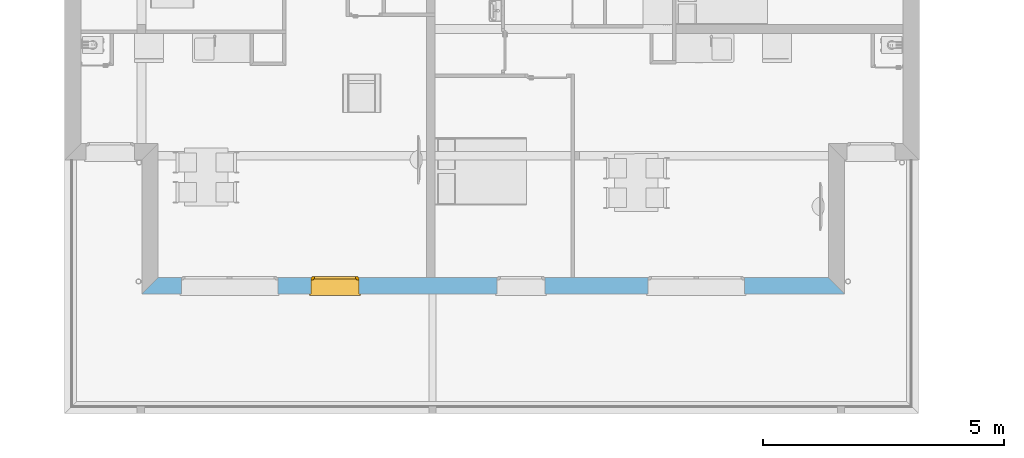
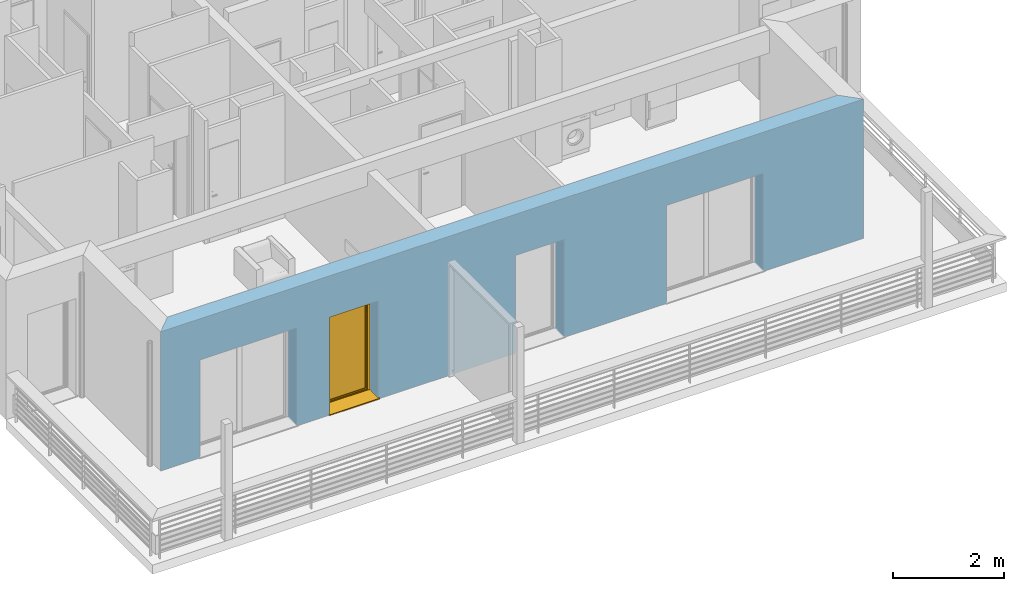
# One storey, part 6 of 165: 1 window, 4 openings, plus 1 element that does not belong to this part.
"""IFC2X3 building model written with IfcOpenShell, lengths in millimetres."""

from ifc_helpers import new_model, entity, si_unit, converted_unit, derived_unit, money_unit, direction, frame, origin_with_axes, place, context, subcontext, project, spatial, polyline, outline, extrude, open_shell, faceted_brep, surface_model, source, transform, mapped, material, layer, layer_set, layer_usage, type_object, element, fill, save


model = new_model("IFC2X3")

# Units and contexts
model_context = context("Model", 3, precision=0.01, world=origin_with_axes(), true_north=direction((0.0, 1.0)))
body_context = subcontext(model_context, "Body", "Model", "MODEL_VIEW")
ifc_project = project(units=[si_unit("LENGTHUNIT", "METRE", prefix="MILLI"), si_unit("AREAUNIT", "SQUARE_METRE"), si_unit("VOLUMEUNIT", "CUBIC_METRE"), converted_unit("PLANEANGLEUNIT", "DEGREE", entity("IfcPlaneAngleMeasure", 0.0174532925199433), si_unit("PLANEANGLEUNIT", "RADIAN"), dimensions=[0, 0, 0, 0, 0, 0, 0]), money_unit("USD"), converted_unit("TIMEUNIT", "Year", entity("IfcTimeMeasure", 31557600.0), si_unit("TIMEUNIT", "SECOND"), dimensions=[0, 0, 1, 0, 0, 0, 0]), si_unit("MASSUNIT", "GRAM", prefix="KILO"), si_unit("THERMODYNAMICTEMPERATUREUNIT", "DEGREE_CELSIUS"), si_unit("LUMINOUSINTENSITYUNIT", "LUMEN"), si_unit("ENERGYUNIT", "JOULE", prefix="MEGA"), derived_unit("THERMALCONDUCTANCEUNIT", [(si_unit("POWERUNIT", "WATT"), 1), (si_unit("LENGTHUNIT", "METRE"), -1), (si_unit("THERMODYNAMICTEMPERATUREUNIT", "KELVIN"), -1)]), derived_unit("SPECIFICHEATCAPACITYUNIT", [(si_unit("ENERGYUNIT", "JOULE"), 1), (si_unit("MASSUNIT", "GRAM", prefix="KILO"), -1), (si_unit("THERMODYNAMICTEMPERATUREUNIT", "KELVIN"), -1)]), derived_unit("MASSDENSITYUNIT", [(si_unit("MASSUNIT", "GRAM", prefix="KILO"), 1), (si_unit("VOLUMEUNIT", "CUBIC_METRE"), -1)])], contexts=[model_context])

# Site, building, storey
site_placement = place(None, origin_with_axes())
site = spatial("IfcSite", under=ifc_project, at=site_placement, Name="Site", CompositionType="ELEMENT")
building_placement = place(site_placement, origin_with_axes())
building = spatial("IfcBuilding", under=site, at=building_placement, Name="Bâtiment", CompositionType="ELEMENT")
storey_placement = place(building_placement, frame((0.0, 0.0, 8500.0), z_axis=(0.0, 0.0, 1.0), x_axis=(1.0, 0.0, 0.0)))
storey = spatial("IfcBuildingStorey", under=building, at=storey_placement, Name="Etage 2", CompositionType="ELEMENT", Elevation=8500.0)

# Wall, openings, window
ifc_material_1 = material(Name="Parpaing 312445824")
ifc_layer_1 = layer(ifc_material_1, 180.0, ventilated="UNKNOWN")
ifc_material_2 = material(Name="Isolant styromousse 301821074")
ifc_layer_2 = layer(ifc_material_2, 160.0, ventilated="UNKNOWN")
ifc_layer_set = layer_set([ifc_layer_1, ifc_layer_2], Name="isol int 18+16 0018356637")
ifc_layer_usage = layer_usage(ifc_layer_set, "AXIS2", "POSITIVE", 0.0)
wall_type = type_object("IfcWallType", Name="isol int 18+16 0018356637 340", PredefinedType="NOTDEFINED")
wall_placement = place(storey_placement, frame((2218234.233338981, -657818.3230769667, 0.0), z_axis=(0.0, 0.0, 1.0), x_axis=(1.0, 0.0, 0.0)))
wall = element("IfcWallStandardCase", 1, at=wall_placement, inside=storey, type_object=wall_type, material=ifc_layer_usage, Name="Mur-142", context=body_context, shape_type="SweptSolid", body=[
    extrude(outline(polyline([(-1.13686837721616e-10, 0.0), (14572.4247596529, 0.0), (14232.42475965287, 340.0000000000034), (339.9999999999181, 340.0000000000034), (-1.13686837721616e-10, 0.0)])), origin_with_axes(), (0.0, 0.0, 1.0), 3050.0),
])
opening_1_placement = place(wall_placement, frame((11494.55984898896, 0.0, 0.0), z_axis=(0.0, 0.0, 1.0), x_axis=(1.0, 0.0, 0.0)))
element("IfcOpeningElement", 2, at=opening_1_placement, cuts=wall, Name="Fen-207", context=body_context, shape_type="Brep", body=[
    faceted_brep([(-1000.0, 341.0000000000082, 2150.0), (1000.0, 341.0000000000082, 2150.0), (1000.0, 341.0000000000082, 0.0), (-1000.0, 341.0000000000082, 0.0), (-1000.0, 530.0000000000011, 2150.0), (1000.0, 530.0000000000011, 2150.0), (1000.0, 290.0000000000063, 2150.0), (1000.0, 290.0000000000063, 0.0), (1000.0, -1.000000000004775, 0.0), (-1000.0, -1.000000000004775, 0.0), (-1000.0, 290.0000000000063, 0.0), (-1000.0, 290.0000000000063, 2150.0), (-1000.0, 280.0000000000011, 2150.0), (-1000.0, 280.0000000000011, 2400.0), (-1000.0, 530.0000000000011, 2400.0), (1000.0, 530.0000000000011, 2400.0), (1000.0, 280.0000000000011, 2400.0), (1000.0, 280.0000000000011, 2150.0), (1000.0, -1.000000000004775, 2150.0), (-1000.0, -1.000000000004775, 2150.0)], [[[0, 1, 2, 3]], [[1, 0, 4, 5]], [[1, 6, 7, 2]], [[7, 8, 9, 10, 3, 2]], [[11, 0, 3, 10]], [[0, 11, 12, 13, 14, 4]], [[15, 5, 4, 14]], [[6, 1, 5, 15, 16, 17]], [[6, 17, 18, 8, 7]], [[19, 9, 8, 18]], [[12, 11, 10, 9, 19]], [[12, 17, 16, 13]], [[16, 15, 14, 13]], [[17, 12, 19, 18]]]),
])
opening_2_placement = place(wall_placement, frame((1819.125619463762, 0.0, 0.0), z_axis=(0.0, 0.0, 1.0), x_axis=(1.0, 0.0, 0.0)))
element("IfcOpeningElement", 3, at=opening_2_placement, cuts=wall, Name="Fen-207", context=body_context, shape_type="Brep", body=[
    faceted_brep([(-1000.0, 341.0000000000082, 2149.999999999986), (1000.0, 341.0000000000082, 2149.999999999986), (1000.0, 341.0000000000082, 0.0), (-1000.0, 341.0000000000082, 0.0), (-1000.0, 530.0000000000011, 2149.999999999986), (1000.0, 530.0000000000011, 2149.999999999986), (1000.0, 290.0000000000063, 2149.999999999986), (1000.0, 290.0000000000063, 0.0), (1000.0, -1.000000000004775, 0.0), (-1000.0, -1.000000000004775, 0.0), (-1000.0, 290.0000000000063, 0.0), (-1000.0, 290.0000000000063, 2149.999999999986), (-1000.0, 280.0000000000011, 2149.999999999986), (-1000.0, 280.0000000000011, 2399.999999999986), (-1000.0, 530.0000000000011, 2399.999999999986), (1000.0, 530.0000000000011, 2399.999999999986), (1000.0, 280.0000000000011, 2399.999999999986), (1000.0, 280.0000000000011, 2149.999999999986), (1000.0, -1.000000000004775, 2149.999999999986), (-1000.0, -1.000000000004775, 2149.999999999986)], [[[0, 1, 2, 3]], [[1, 0, 4, 5]], [[1, 6, 7, 2]], [[7, 8, 9, 10, 3, 2]], [[11, 0, 3, 10]], [[0, 11, 12, 13, 14, 4]], [[4, 14, 15, 5]], [[6, 1, 5, 15, 16, 17]], [[6, 17, 18, 8, 7]], [[19, 9, 8, 18]], [[12, 11, 10, 9, 19]], [[12, 17, 16, 13]], [[14, 13, 16, 15]], [[17, 12, 19, 18]]]),
])
opening_3_placement = place(wall_placement, frame((7861.100702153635, 0.0, 0.0), z_axis=(0.0, 0.0, 1.0), x_axis=(1.0, 0.0, 0.0)))
element("IfcOpeningElement", 4, at=opening_3_placement, cuts=wall, Name="Fen-207", context=body_context, shape_type="Brep", body=[
    faceted_brep([(-500.0, 341.0000000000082, 2150.0), (500.0, 341.0000000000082, 2150.0), (500.0, 341.0000000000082, 0.0), (-500.0, 341.0000000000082, 0.0), (-500.0, 530.0000000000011, 2150.0), (500.0, 530.0000000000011, 2150.0), (500.0, 290.0000000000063, 2150.0), (500.0, 290.0000000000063, 0.0), (500.0, -1.000000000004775, 0.0), (-500.0, -1.000000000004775, 0.0), (-500.0, 290.0000000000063, 0.0), (-500.0, 290.0000000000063, 2150.0), (-500.0, 280.0000000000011, 2150.0), (-500.0, 280.0000000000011, 2400.0), (-500.0, 530.0000000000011, 2400.0), (500.0, 530.0000000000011, 2400.0), (500.0, 280.0000000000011, 2400.0), (500.0, 280.0000000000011, 2150.0), (500.0, -1.000000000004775, 2150.0), (-500.0, -1.000000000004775, 2150.0)], [[[0, 1, 2, 3]], [[1, 0, 4, 5]], [[1, 6, 7, 2]], [[7, 8, 9, 10, 3, 2]], [[11, 0, 3, 10]], [[0, 11, 12, 13, 14, 4]], [[4, 14, 15, 5]], [[6, 1, 5, 15, 16, 17]], [[6, 17, 18, 8, 7]], [[19, 9, 8, 18]], [[12, 11, 10, 9, 19]], [[12, 17, 16, 13]], [[14, 13, 16, 15]], [[17, 12, 19, 18]]]),
])
opening_4_placement = place(wall_placement, frame((4005.859536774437, 0.0, 0.0), z_axis=(0.0, 0.0, 1.0), x_axis=(1.0, 0.0, 0.0)))
opening_4 = element("IfcOpeningElement", 5, at=opening_4_placement, cuts=wall, Name="Fen-208", context=body_context, shape_type="Brep", body=[
    faceted_brep([(-500.0, 341.0000000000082, 2150.000000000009), (500.0, 341.0000000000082, 2150.000000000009), (500.0, 341.0000000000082, 0.0), (-500.0, 341.0000000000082, 0.0), (-500.0, 530.0000000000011, 2150.000000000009), (500.0, 530.0000000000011, 2150.000000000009), (500.0, 290.0000000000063, 2150.000000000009), (500.0, 290.0000000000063, 0.0), (500.0, -1.000000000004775, 0.0), (-500.0, -1.000000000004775, 0.0), (-500.0, 290.0000000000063, 0.0), (-500.0, 290.0000000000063, 2150.000000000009), (-500.0, 280.0000000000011, 2150.000000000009), (-500.0, 280.0000000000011, 2400.000000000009), (-500.0, 530.0000000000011, 2400.000000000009), (500.0, 530.0000000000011, 2400.000000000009), (500.0, 280.0000000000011, 2400.000000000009), (500.0, 280.0000000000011, 2150.000000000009), (500.0, -1.000000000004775, 2150.000000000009), (-500.0, -1.000000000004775, 2150.000000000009)], [[[0, 1, 2, 3]], [[1, 0, 4, 5]], [[1, 6, 7, 2]], [[7, 8, 9, 10, 3, 2]], [[11, 0, 3, 10]], [[0, 11, 12, 13, 14, 4]], [[4, 14, 15, 5]], [[6, 1, 5, 15, 16, 17]], [[6, 17, 18, 8, 7]], [[19, 9, 8, 18]], [[12, 11, 10, 9, 19]], [[12, 17, 16, 13]], [[14, 13, 16, 15]], [[17, 12, 19, 18]]]),
])
window_style = type_object("IfcWindowStyle", Name="Fenêtre 27", ConstructionType="NOTDEFINED", OperationType="SINGLE_PANEL", ParameterTakesPrecedence=False, Sizeable=False)
shared_shape = source(origin_with_axes(), body_context, "Body", "SurfaceModel", [
    surface_model("IfcShellBasedSurfaceModel", [(-500.0, -51.00000000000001, 40.00000000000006), (500.0, -51.00000000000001, 40.0), (500.0, -51.00000000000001, 50.0), (-500.0, -51.00000000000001, 50.00000000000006), (-530.0, -369.9999999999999, 28.96551724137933), (530.0, -369.9999999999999, 28.96551724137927), (530.0, -339.9999999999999, 30.00324289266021), (500.0, -339.9999999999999, 30.00324289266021), (-500.0, -339.9999999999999, 30.00324289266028), (-530.0, -339.9999999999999, 30.00324289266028), (-530.0, -369.9999999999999, 8.96551724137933), (530.0, -369.9999999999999, 8.965517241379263), (-530.0, -359.9999999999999, 18.96551724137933), (530.0, -359.9999999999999, 18.96551724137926)], [open_shell([[[0, 1, 2, 3]], [[4, 5, 6, 7, 1, 0, 8, 9]], [[10, 11, 5, 4]], [[12, 13, 11, 10]]])]),
    faceted_brep([(500.0, -59.99999999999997, 2400.0), (500.0, 190.0, 2400.0), (497.0, 190.0, 2400.0), (497.0, -59.99999999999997, 2400.0), (500.0, -59.99999999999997, 2150.0), (500.0, 190.0, 2150.0), (497.0, 190.0, 2150.0), (497.0, -59.99999999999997, 2150.0)], [[[0, 1, 2, 3]], [[0, 4, 5, 1]], [[1, 5, 6, 2]], [[3, 2, 6, 7]], [[4, 0, 3, 7]], [[5, 4, 7, 6]]]),
    faceted_brep([(-497.0, -59.99999999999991, 2400.0), (-497.0, 190.0000000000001, 2400.0), (-500.0, 190.0000000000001, 2400.0), (-500.0, -59.99999999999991, 2400.0), (-497.0, -59.99999999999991, 2150.0), (-497.0, 190.0000000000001, 2150.0), (-500.0, 190.0000000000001, 2150.0), (-500.0, -59.99999999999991, 2150.0)], [[[0, 1, 2, 3]], [[0, 4, 5, 1]], [[1, 5, 6, 2]], [[3, 2, 6, 7]], [[4, 0, 3, 7]], [[5, 4, 7, 6]]]),
    faceted_brep([(497.0, -60.0, 2150.0), (497.0, -60.0, 2400.0), (-497.0, -59.99999999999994, 2400.0), (-497.0, -59.99999999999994, 2150.0), (497.0, -56.99999999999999, 2150.0), (497.0, -56.99999999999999, 2397.0), (497.0, 187.0, 2397.0), (497.0, 187.0, 2153.0), (497.0, -37.99999999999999, 2153.0), (497.0, -37.99999999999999, 2150.0), (497.0, 190.0, 2150.0), (497.0, 190.0, 2400.0), (-497.0, 190.0000000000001, 2400.0), (-497.0, 190.0000000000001, 2150.0), (-497.0, -37.99999999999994, 2150.0), (-497.0, -37.99999999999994, 2153.0), (-497.0, 187.0000000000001, 2153.0), (-497.0, 187.0000000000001, 2397.0), (-497.0, -56.99999999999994, 2397.0), (-497.0, -56.99999999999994, 2150.0)], [[[0, 1, 2, 3]], [[0, 4, 5, 6, 7, 8, 9, 10, 11, 1]], [[1, 11, 12, 2]], [[3, 2, 12, 13, 14, 15, 16, 17, 18, 19]], [[4, 0, 3, 19]], [[5, 4, 19, 18]], [[6, 5, 18, 17]], [[7, 6, 17, 16]], [[8, 7, 16, 15]], [[9, 8, 15, 14]], [[10, 9, 14, 13]], [[11, 10, 13, 12]]]),
    faceted_brep([(494.0, -40.37442957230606, 2256.419644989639), (494.0, -35.54711042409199, 2238.403844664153), (494.0, -27.66471820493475, 2221.5), (494.0, -16.9667554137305, 2206.22172576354), (494.0, -3.778274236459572, 2193.033244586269), (494.0, 11.50000000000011, 2182.335281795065), (494.0, 28.40384466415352, 2174.452889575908), (494.0, 46.4196449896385, 2169.625570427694), (494.0, 65.00000000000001, 2168.0), (494.0, 83.58035501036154, 2169.625570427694), (494.0, 101.5961553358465, 2174.452889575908), (494.0, 118.4999999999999, 2182.335281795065), (494.0, 133.7782742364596, 2193.033244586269), (494.0, 146.9667554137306, 2206.22172576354), (494.0, 157.6647182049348, 2221.5), (494.0, 165.5471104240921, 2238.403844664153), (494.0, 170.3744295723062, 2256.419644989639), (494.0, 171.9999999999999, 2275.0), (494.0, 170.3744295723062, 2293.580355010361), (494.0, 165.5471104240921, 2311.596155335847), (494.0, 157.6647182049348, 2328.5), (494.0, 146.9667554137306, 2343.77827423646), (494.0, 133.7782742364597, 2356.96675541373), (494.0, 118.5, 2367.664718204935), (494.0, 101.5961553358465, 2375.547110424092), (494.0, 83.58035501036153, 2380.374429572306), (494.0, 64.99999999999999, 2382.0), (494.0, 46.41964498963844, 2380.374429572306), (494.0, 28.40384466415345, 2375.547110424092), (494.0, 11.5, 2367.664718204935), (494.0, -3.778274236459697, 2356.96675541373), (494.0, -16.96675541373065, 2343.77827423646), (494.0, -27.66471820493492, 2328.5), (494.0, -35.54711042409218, 2311.596155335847), (494.0, -40.37442957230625, 2293.580355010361), (494.0, -41.99999999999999, 2275.0), (-494.0, -40.374429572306, 2256.419644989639), (-494.0, -35.54711042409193, 2238.403844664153), (-494.0, -27.6647182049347, 2221.5), (-494.0, -16.96675541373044, 2206.22172576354), (-494.0, -3.778274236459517, 2193.033244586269), (-494.0, 11.50000000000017, 2182.335281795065), (-494.0, 28.40384466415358, 2174.452889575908), (-494.0, 46.41964498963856, 2169.625570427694), (-494.0, 65.00000000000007, 2168.0), (-494.0, 83.5803550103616, 2169.625570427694), (-494.0, 101.5961553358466, 2174.452889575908), (-494.0, 118.5, 2182.335281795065), (-494.0, 133.7782742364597, 2193.033244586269), (-494.0, 146.9667554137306, 2206.22172576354), (-494.0, 157.6647182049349, 2221.5), (-494.0, 165.5471104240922, 2238.403844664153), (-494.0, 170.3744295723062, 2256.419644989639), (-494.0, 172.0, 2275.0), (-494.0, 170.3744295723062, 2293.580355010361), (-494.0, 165.5471104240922, 2311.596155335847), (-494.0, 157.6647182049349, 2328.5), (-494.0, 146.9667554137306, 2343.77827423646), (-494.0, 133.7782742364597, 2356.96675541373), (-494.0, 118.5, 2367.664718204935), (-494.0, 101.5961553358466, 2375.547110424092), (-494.0, 83.58035501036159, 2380.374429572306), (-494.0, 65.00000000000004, 2382.0), (-494.0, 46.41964498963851, 2380.374429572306), (-494.0, 28.40384466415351, 2375.547110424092), (-494.0, 11.50000000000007, 2367.664718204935), (-494.0, -3.778274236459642, 2356.96675541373), (-494.0, -16.96675541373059, 2343.77827423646), (-494.0, -27.66471820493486, 2328.5), (-494.0, -35.54711042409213, 2311.596155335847), (-494.0, -40.37442957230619, 2293.580355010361), (-494.0, -41.99999999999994, 2275.0)], [[[0, 1, 2, 3, 4, 5, 6, 7, 8, 9, 10, 11, 12, 13, 14, 15, 16, 17, 18, 19, 20, 21, 22, 23, 24, 25, 26, 27, 28, 29, 30, 31, 32, 33, 34, 35]], [[1, 0, 36, 37]], [[2, 1, 37, 38]], [[3, 2, 38, 39]], [[4, 3, 39, 40]], [[5, 4, 40, 41]], [[6, 5, 41, 42]], [[7, 6, 42, 43]], [[8, 7, 43, 44]], [[9, 8, 44, 45]], [[10, 9, 45, 46]], [[11, 10, 46, 47]], [[12, 11, 47, 48]], [[13, 12, 48, 49]], [[14, 13, 49, 50]], [[15, 14, 50, 51]], [[16, 15, 51, 52]], [[17, 16, 52, 53]], [[18, 17, 53, 54]], [[19, 18, 54, 55]], [[20, 19, 55, 56]], [[21, 20, 56, 57]], [[22, 21, 57, 58]], [[23, 22, 58, 59]], [[24, 23, 59, 60]], [[25, 24, 60, 61]], [[26, 25, 61, 62]], [[27, 26, 62, 63]], [[28, 27, 63, 64]], [[29, 28, 64, 65]], [[30, 29, 65, 66]], [[31, 30, 66, 67]], [[32, 31, 67, 68]], [[33, 32, 68, 69]], [[34, 33, 69, 70]], [[35, 34, 70, 71]], [[0, 35, 71, 36]], [[36, 71, 70, 69, 68, 67, 66, 65, 64, 63, 62, 61, 60, 59, 58, 57, 56, 55, 54, 53, 52, 51, 50, 49, 48, 47, 46, 45, 44, 43, 42, 41, 40, 39, 38, 37]]]),
    faceted_brep([(-500.0, -34.99999999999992, 30.0), (-500.0, -59.99999999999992, 30.0), (-500.0, -59.99999999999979, 2150.0), (-500.0, -34.99999999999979, 2150.0), (-475.0, -34.99999999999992, 30.0), (-475.0, -37.99999999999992, 30.0), (-497.0, -37.99999999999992, 30.0), (-497.0, -56.99999999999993, 30.0), (-475.0, -56.99999999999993, 30.0), (-475.0, -59.99999999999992, 30.0), (-475.0, -59.99999999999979, 2150.0), (-475.0, -56.99999999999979, 2150.0), (-497.0, -56.99999999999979, 2150.0), (-497.0, -37.99999999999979, 2150.0), (-475.0, -37.99999999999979, 2150.0), (-475.0, -34.99999999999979, 2150.0)], [[[0, 1, 2, 3]], [[0, 4, 5, 6, 7, 8, 9, 1]], [[1, 9, 10, 2]], [[3, 2, 10, 11, 12, 13, 14, 15]], [[4, 0, 3, 15]], [[5, 4, 15, 14]], [[6, 5, 14, 13]], [[7, 6, 13, 12]], [[8, 7, 12, 11]], [[9, 8, 11, 10]]]),
    faceted_brep([(500.0, -34.99999999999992, 30.0), (500.0, -34.99999999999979, 2150.0), (500.0, -59.99999999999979, 2150.0), (500.0, -59.99999999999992, 30.0), (475.0, -34.99999999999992, 30.0), (475.0, -34.99999999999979, 2150.0), (475.0, -37.99999999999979, 2150.0), (497.0, -37.99999999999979, 2150.0), (497.0, -56.99999999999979, 2150.0), (475.0, -56.99999999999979, 2150.0), (475.0, -59.99999999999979, 2150.0), (475.0, -59.99999999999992, 30.0), (475.0, -56.99999999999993, 30.0), (497.0, -56.99999999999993, 30.0), (497.0, -37.99999999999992, 30.0), (475.0, -37.99999999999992, 30.0)], [[[0, 1, 2, 3]], [[4, 5, 1, 0]], [[1, 5, 6, 7, 8, 9, 10, 2]], [[3, 2, 10, 11]], [[0, 3, 11, 12, 13, 14, 15, 4]], [[15, 6, 5, 4]], [[14, 7, 6, 15]], [[13, 8, 7, 14]], [[12, 9, 8, 13]], [[11, 10, 9, 12]]]),
    faceted_brep([(-497.0, -46.66666666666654, 2275.0), (497.0, -46.6666666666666, 2275.0), (497.0, -46.6666666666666, 2266.666666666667), (-497.0, -46.66666666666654, 2266.666666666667), (-497.0, -51.66666666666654, 2275.0), (497.0, -51.6666666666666, 2275.0), (497.0, -51.6666666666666, 2266.666666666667), (497.0, -49.99999999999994, 2250.0), (497.0, -44.99999999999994, 2250.0), (-497.0, -44.99999999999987, 2250.0), (-497.0, -49.99999999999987, 2250.0), (-497.0, -51.66666666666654, 2266.666666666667)], [[[0, 1, 2, 3]], [[1, 0, 4, 5]], [[1, 5, 6, 7, 8, 2]], [[2, 8, 9, 3]], [[4, 0, 3, 9, 10, 11]], [[6, 5, 4, 11]], [[7, 6, 11, 10]], [[8, 7, 10, 9]]]),
    faceted_brep([(497.0, -44.99999999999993, 2250.0), (497.0, -46.6666666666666, 2233.333333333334), (-497.0, -46.66666666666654, 2233.333333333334), (-497.0, -44.99999999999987, 2250.0), (497.0, -49.99999999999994, 2250.0), (497.0, -51.6666666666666, 2233.333333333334), (497.0, -51.6666666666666, 2216.666666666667), (497.0, -49.99999999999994, 2200.0), (497.0, -44.99999999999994, 2200.0), (497.0, -46.6666666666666, 2216.666666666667), (-497.0, -46.66666666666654, 2216.666666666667), (-497.0, -44.99999999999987, 2200.0), (-497.0, -49.99999999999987, 2200.0), (-497.0, -51.66666666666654, 2216.666666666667), (-497.0, -51.66666666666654, 2233.333333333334), (-497.0, -49.99999999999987, 2250.0)], [[[0, 1, 2, 3]], [[0, 4, 5, 6, 7, 8, 9, 1]], [[1, 9, 10, 2]], [[3, 2, 10, 11, 12, 13, 14, 15]], [[4, 0, 3, 15]], [[5, 4, 15, 14]], [[6, 5, 14, 13]], [[7, 6, 13, 12]], [[8, 7, 12, 11]], [[9, 8, 11, 10]]]),
    faceted_brep([(497.0, -44.99999999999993, 2200.0), (497.0, -46.6666666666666, 2183.333333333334), (-497.0, -46.66666666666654, 2183.333333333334), (-497.0, -44.99999999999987, 2200.0), (497.0, -49.99999999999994, 2200.0), (497.0, -51.6666666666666, 2183.333333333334), (497.0, -51.6666666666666, 2166.666666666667), (497.0, -49.99999999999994, 2150.000000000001), (497.0, -44.99999999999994, 2150.000000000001), (497.0, -46.6666666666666, 2166.666666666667), (-497.0, -46.66666666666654, 2166.666666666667), (-497.0, -44.99999999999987, 2150.000000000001), (-497.0, -49.99999999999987, 2150.000000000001), (-497.0, -51.66666666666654, 2166.666666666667), (-497.0, -51.66666666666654, 2183.333333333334), (-497.0, -49.99999999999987, 2200.0)], [[[0, 1, 2, 3]], [[0, 4, 5, 6, 7, 8, 9, 1]], [[1, 9, 10, 2]], [[3, 2, 10, 11, 12, 13, 14, 15]], [[4, 0, 3, 15]], [[5, 4, 15, 14]], [[6, 5, 14, 13]], [[7, 6, 13, 12]], [[8, 7, 12, 11]], [[9, 8, 11, 10]]]),
    faceted_brep([(475.0000000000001, 0.0, 2100.0), (475.0000000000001, -25.00000000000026, 2100.0), (450.0, -25.00000000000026, 2100.0), (450.0, -50.00000000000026, 2100.0), (500.0, -50.00000000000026, 2100.0), (500.0, 0.0, 2100.0), (475.0000000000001, 0.0, 50.00000000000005), (475.0000000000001, -25.00000000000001, 50.00000000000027), (450.0, -25.00000000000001, 50.00000000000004), (450.0, -50.00000000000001, 50.00000000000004), (500.0, -50.00000000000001, 50.00000000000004), (500.0, 0.0, 50.00000000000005)], [[[0, 1, 2, 3, 4, 5]], [[1, 0, 6, 7]], [[8, 2, 1, 7]], [[2, 8, 9, 3]], [[4, 3, 9, 10]], [[5, 4, 10, 11]], [[6, 0, 5, 11]], [[7, 6, 11, 10, 9, 8]]]),
    faceted_brep([(-450.0, -25.00000000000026, 2100.0), (-475.0000000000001, -25.00000000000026, 2100.0), (-475.0000000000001, 0.0, 2100.0), (-500.0, 0.0, 2100.0), (-500.0, -50.00000000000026, 2100.0), (-450.0, -50.00000000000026, 2100.0), (-450.0, -25.00000000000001, 50.00000000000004), (-475.0000000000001, -25.00000000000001, 50.00000000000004), (-475.0000000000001, 0.0, 50.00000000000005), (-500.0, 0.0, 50.00000000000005), (-500.0, -50.00000000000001, 50.00000000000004), (-450.0, -50.00000000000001, 50.00000000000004)], [[[0, 1, 2, 3, 4, 5]], [[1, 0, 6, 7]], [[8, 2, 1, 7]], [[2, 8, 9, 3]], [[9, 10, 4, 3]], [[10, 11, 5, 4]], [[6, 0, 5, 11]], [[7, 6, 11, 10, 9, 8]]]),
    faceted_brep([(-450.0, -25.00000000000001, 50.00000000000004), (-475.0000000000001, -25.00000000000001, 50.00000000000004), (-475.0000000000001, 0.0, 50.00000000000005), (-500.0, 0.0, 50.00000000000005), (-500.0, -50.00000000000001, 50.00000000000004), (-450.0, -50.00000000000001, 50.00000000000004), (450.0, -25.00000000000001, 50.00000000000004), (475.0000000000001, -25.00000000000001, 50.00000000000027), (475.0000000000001, -25.0, 24.99999999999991), (-475.0000000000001, -25.0, 24.99999999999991), (-475.0000000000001, 0.0, 24.99999999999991), (475.0000000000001, 0.0, 24.99999999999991), (475.0000000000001, 0.0, 50.00000000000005), (500.0, 0.0, 50.00000000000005), (500.0, 0.0, 0.0), (-500.0, 0.0, 0.0), (-500.0, -50.0, 0.0), (500.0, -50.00000000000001, 50.00000000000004), (450.0, -50.00000000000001, 50.00000000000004), (500.0, -50.0, 0.0)], [[[0, 1, 2, 3, 4, 5]], [[1, 0, 6, 7, 8, 9]], [[10, 2, 1, 9]], [[11, 12, 13, 14, 15, 3, 2, 10]], [[15, 16, 4, 3]], [[17, 18, 5, 4, 16, 19]], [[6, 0, 5, 18]], [[7, 6, 18, 17, 13, 12]], [[7, 12, 11, 8]], [[11, 10, 9, 8]], [[13, 17, 19, 14]], [[14, 19, 16, 15]]]),
    faceted_brep([(475.0000000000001, 0.0, 2100.0), (475.0000000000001, 0.0, 2125.0), (-475.0000000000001, 0.0, 2125.0), (-475.0000000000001, 0.0, 2100.0), (-500.0, 0.0, 2100.0), (-500.0, 0.0, 2150.0), (500.0, 0.0, 2150.0), (500.0, 0.0, 2100.0), (475.0000000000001, -25.00000000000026, 2100.0), (475.0000000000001, -25.00000000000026, 2125.0), (-475.0000000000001, -25.00000000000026, 2125.0), (-475.0000000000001, -25.00000000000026, 2100.0), (-450.0, -25.00000000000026, 2100.0), (-450.0, -50.00000000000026, 2100.0), (-500.0, -50.00000000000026, 2100.0), (-500.0, -50.00000000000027, 2150.0), (500.0, -50.00000000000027, 2150.0), (500.0, -50.00000000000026, 2100.0), (450.0, -50.00000000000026, 2100.0), (450.0, -25.00000000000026, 2100.0)], [[[0, 1, 2, 3, 4, 5, 6, 7]], [[1, 0, 8, 9]], [[2, 1, 9, 10]], [[3, 2, 10, 11]], [[11, 12, 13, 14, 4, 3]], [[4, 14, 15, 5]], [[5, 15, 16, 6]], [[6, 16, 17, 7]], [[8, 0, 7, 17, 18, 19]], [[12, 11, 10, 9, 8, 19]], [[12, 19, 18, 13]], [[14, 13, 18, 17, 16, 15]]]),
    faceted_brep([(425.0000000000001, -25.00000000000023, 2075.0), (475.0000000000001, -25.00000000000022, 2075.0), (475.0000000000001, 24.99999999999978, 2075.0), (425.0000000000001, 24.99999999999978, 2075.0), (425.0000000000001, -24.99999999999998, 75.00000000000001), (475.0000000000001, -24.99999999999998, 75.00000000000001), (475.0000000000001, 25.00000000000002, 75.00000000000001), (425.0000000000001, 25.00000000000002, 75.00000000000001)], [[[0, 1, 2, 3]], [[0, 4, 5, 1]], [[1, 5, 6, 2]], [[3, 2, 6, 7]], [[4, 0, 3, 7]], [[5, 4, 7, 6]]]),
    faceted_brep([(-425.0000000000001, -25.00000000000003, 75.00000000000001), (-475.0000000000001, -25.00000000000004, 75.00000000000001), (-475.0000000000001, 24.99999999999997, 75.00000000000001), (-425.0000000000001, 24.99999999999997, 75.00000000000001), (-425.0000000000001, -25.00000000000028, 2075.0), (-475.0000000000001, -25.00000000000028, 2075.0), (-475.0000000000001, 24.99999999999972, 2075.0), (-425.0000000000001, 24.99999999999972, 2075.0)], [[[0, 1, 2, 3]], [[0, 4, 5, 1]], [[1, 5, 6, 2]], [[3, 2, 6, 7]], [[4, 0, 3, 7]], [[5, 4, 7, 6]]]),
    faceted_brep([(-475.0000000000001, -25.00000000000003, 25.0), (-475.0000000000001, -25.00000000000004, 75.00000000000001), (-475.0000000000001, 24.99999999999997, 75.00000000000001), (-475.0000000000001, 24.99999999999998, 25.00000000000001), (475.0000000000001, -24.99999999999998, 25.0), (475.0000000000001, -24.99999999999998, 75.00000000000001), (425.0000000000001, -24.99999999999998, 75.00000000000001), (-425.0000000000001, -25.00000000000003, 75.00000000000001), (-425.0000000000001, 24.99999999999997, 75.00000000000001), (425.0000000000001, 25.00000000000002, 75.00000000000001), (475.0000000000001, 25.00000000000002, 75.00000000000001), (475.0000000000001, 25.00000000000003, 25.00000000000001)], [[[0, 1, 2, 3]], [[0, 4, 5, 6, 7, 1]], [[1, 7, 8, 2]], [[3, 2, 8, 9, 10, 11]], [[4, 0, 3, 11]], [[5, 4, 11, 10]], [[6, 5, 10, 9]], [[7, 6, 9, 8]]]),
    faceted_brep([(475.0000000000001, -25.00000000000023, 2125.0), (475.0000000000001, -25.00000000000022, 2075.0), (475.0000000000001, 24.99999999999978, 2075.0), (475.0000000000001, 24.99999999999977, 2125.0), (-475.0000000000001, -25.00000000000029, 2125.0), (-475.0000000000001, -25.00000000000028, 2075.0), (-425.0000000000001, -25.00000000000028, 2075.0), (425.0000000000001, -25.00000000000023, 2075.0), (425.0000000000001, 24.99999999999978, 2075.0), (-425.0000000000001, 24.99999999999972, 2075.0), (-475.0000000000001, 24.99999999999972, 2075.0), (-475.0000000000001, 24.99999999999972, 2125.0)], [[[0, 1, 2, 3]], [[0, 4, 5, 6, 7, 1]], [[1, 7, 8, 2]], [[3, 2, 8, 9, 10, 11]], [[4, 0, 3, 11]], [[5, 4, 11, 10]], [[6, 5, 10, 9]], [[7, 6, 9, 8]]]),
    surface_model("IfcShellBasedSurfaceModel", [(425.0000000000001, -10.00000000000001, 75.00000000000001), (425.0000000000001, -10.00000000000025, 2075.0), (-425.0000000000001, -10.00000000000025, 2075.0), (-425.0000000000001, -10.00000000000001, 75.00000000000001)], [open_shell([[[0, 1, 2, 3]]])]),
    surface_model("IfcShellBasedSurfaceModel", [(425.0000000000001, 9.999999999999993, 75.00000000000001), (-425.0000000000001, 9.999999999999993, 75.00000000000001), (-425.0000000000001, 9.99999999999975, 2075.0), (425.0000000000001, 9.99999999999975, 2075.0)], [open_shell([[[0, 1, 2, 3]]])]),
])
window_placement = place(opening_4_placement, frame((-500.0000000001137, 0.0, 0.0), z_axis=(0.0, 0.0, 1.0), x_axis=(1.0, 0.0, 0.0)))
window = element("IfcWindow", 6, at=window_placement, inside=storey, type_object=window_style, Name="Fen-208", OverallHeight=2150.0, OverallWidth=1000.0, context=body_context, shape_type="MappedRepresentation", body=[
    mapped(shared_shape, transform((500.0, 340.0000000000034, 0.0))),
])
fill(opening_4, window)

save(model, "model.ifc")
